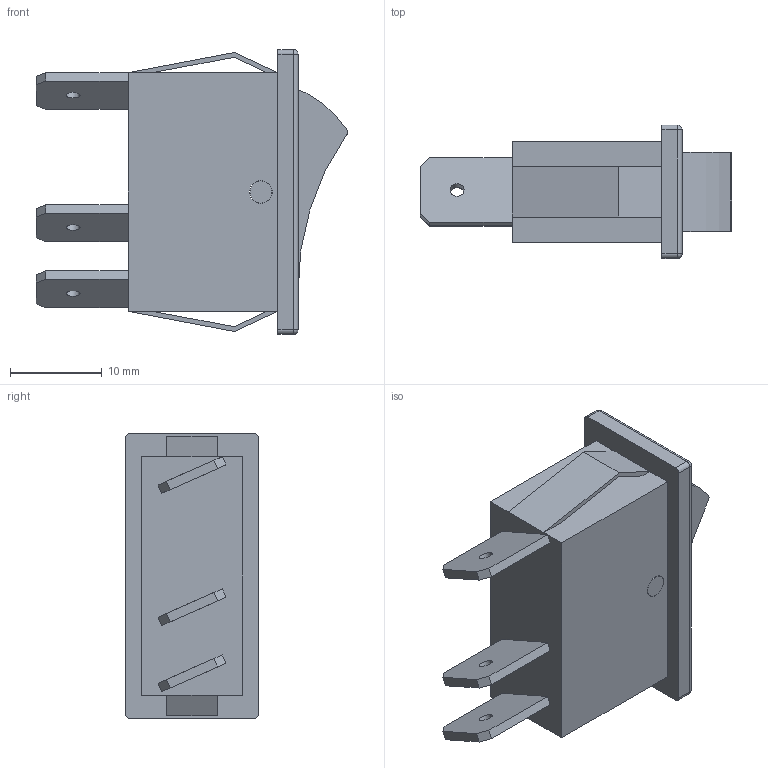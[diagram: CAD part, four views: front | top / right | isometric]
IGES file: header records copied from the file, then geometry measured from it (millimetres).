
Start section: START RECORD GO HERE.
Global section: file name: SPDT 30A switch.igs; native system: DASSAULT SYSTEMES CATIA V5 R20 - www.3ds.com; preprocessor: CATIA Version 5 Release 20 ; author: PRADEEP; organization: DESIGN01; date: 20170726.150627; units: millimetre
Bounding box: 33.9 x 14.5 x 31 mm (x, y, z)
Surface area: 3979.6 mm2 (no closed solid volume)
Topology: 0 solids, 0 shells, 594 faces, 3320 edges, 3315 vertices
Faces by surface type: plane 568, revolution 26
